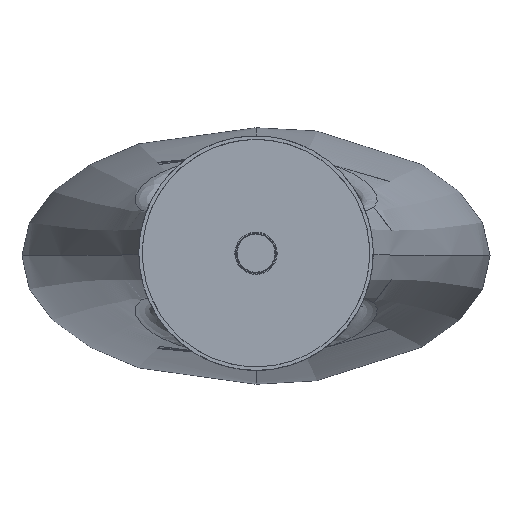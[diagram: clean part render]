
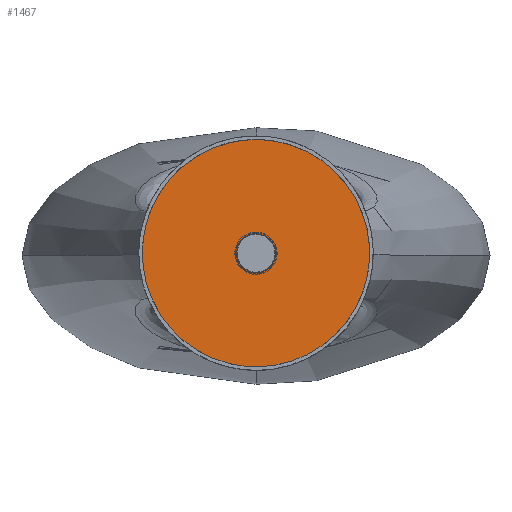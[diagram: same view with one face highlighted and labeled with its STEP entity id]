
A CAD part, top view. The second image highlights one B-rep face of the part: STEP entity #1467.
In plain terms, the highlighted free-form (B-spline) face has degree [2, 1] with [9, 2] control points.
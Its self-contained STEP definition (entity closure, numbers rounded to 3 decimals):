
#882=B_SPLINE_CURVE_WITH_KNOTS('',1,(#51310,#51311),.UNSPECIFIED.,.F.,.F.,
(2,2),(89.9,130.3),.UNSPECIFIED.);
#946=(
BOUNDED_SURFACE()
B_SPLINE_SURFACE(2,1,((#51244,#51245),(#51246,#51247),(#51248,#51249),(#51250,
#51251),(#51252,#51253),(#51254,#51255),(#51256,#51257),(#51258,#51259),
(#51260,#51261)),.UNSPECIFIED.,.T.,.F.,.F.)
B_SPLINE_SURFACE_WITH_KNOTS((3,2,2,2,3),(2,2),(0.,78.54,157.08,
235.619,314.159),(89.9,130.3),
 .UNSPECIFIED.)
GEOMETRIC_REPRESENTATION_ITEM()
RATIONAL_B_SPLINE_SURFACE(((1.,1.),(0.707,0.707),
(1.,1.),(0.707,0.707),(1.,1.),(0.707,
0.707),(1.,1.),(0.707,0.707),(1.,1.)))
REPRESENTATION_ITEM('')
SURFACE()
);
#1467=ADVANCED_FACE('',(#1919),#946,.T.);
#1919=FACE_OUTER_BOUND('',#2418,.T.);
#2418=EDGE_LOOP('',(#4638,#4639,#4640,#4641));
#4638=ORIENTED_EDGE('',*,*,#5757,.F.);
#4639=ORIENTED_EDGE('',*,*,#5762,.T.);
#4640=ORIENTED_EDGE('',*,*,#5757,.T.);
#4641=ORIENTED_EDGE('',*,*,#5763,.F.);
#5757=EDGE_CURVE('',#6804,#6803,#882,.T.);
#5762=EDGE_CURVE('',#6804,#6804,#6082,.T.);
#5763=EDGE_CURVE('',#6803,#6803,#6083,.T.);
#6082=(
BOUNDED_CURVE()
B_SPLINE_CURVE(2,(#51334,#51335,#51336,#51337,#51338,#51339,#51340,#51341,
#51342),.UNSPECIFIED.,.T.,.F.)
B_SPLINE_CURVE_WITH_KNOTS((3,2,2,2,3),(0.,78.54,157.08,
235.619,314.159),.UNSPECIFIED.)
CURVE()
GEOMETRIC_REPRESENTATION_ITEM()
RATIONAL_B_SPLINE_CURVE((1.,0.707,1.,0.707,1.,0.707,
1.,0.707,1.))
REPRESENTATION_ITEM('')
);
#6083=(
BOUNDED_CURVE()
B_SPLINE_CURVE(2,(#51343,#51344,#51345,#51346,#51347,#51348,#51349,#51350,
#51351),.UNSPECIFIED.,.T.,.F.)
B_SPLINE_CURVE_WITH_KNOTS((3,2,2,2,3),(0.,78.54,157.08,
235.619,314.159),.UNSPECIFIED.)
CURVE()
GEOMETRIC_REPRESENTATION_ITEM()
RATIONAL_B_SPLINE_CURVE((1.,0.707,1.,0.707,1.,0.707,
1.,0.707,1.))
REPRESENTATION_ITEM('')
);
#6803=VERTEX_POINT('',#51291);
#6804=VERTEX_POINT('',#51292);
#51244=CARTESIAN_POINT('',(-48.5,0.,-22.5));
#51245=CARTESIAN_POINT('',(-8.1,0.,-22.5));
#51246=CARTESIAN_POINT('',(-48.5,-48.5,-22.5));
#51247=CARTESIAN_POINT('',(-8.1,-8.1,-22.5));
#51248=CARTESIAN_POINT('',(0.,-48.5,-22.5));
#51249=CARTESIAN_POINT('',(0.,-8.1,-22.5));
#51250=CARTESIAN_POINT('',(48.5,-48.5,-22.5));
#51251=CARTESIAN_POINT('',(8.1,-8.1,-22.5));
#51252=CARTESIAN_POINT('',(48.5,0.,-22.5));
#51253=CARTESIAN_POINT('',(8.1,0.,-22.5));
#51254=CARTESIAN_POINT('',(48.5,48.5,-22.5));
#51255=CARTESIAN_POINT('',(8.1,8.1,-22.5));
#51256=CARTESIAN_POINT('',(0.,48.5,-22.5));
#51257=CARTESIAN_POINT('',(0.,8.1,-22.5));
#51258=CARTESIAN_POINT('',(-48.5,48.5,-22.5));
#51259=CARTESIAN_POINT('',(-8.1,8.1,-22.5));
#51260=CARTESIAN_POINT('',(-48.5,0.,-22.5));
#51261=CARTESIAN_POINT('',(-8.1,0.,-22.5));
#51291=CARTESIAN_POINT('',(-8.1,0.,-22.5));
#51292=CARTESIAN_POINT('',(-48.5,0.,-22.5));
#51310=CARTESIAN_POINT('',(-48.5,0.,-22.5));
#51311=CARTESIAN_POINT('',(-8.1,0.,-22.5));
#51334=CARTESIAN_POINT('',(-48.5,0.,-22.5));
#51335=CARTESIAN_POINT('',(-48.5,-48.5,-22.5));
#51336=CARTESIAN_POINT('',(0.,-48.5,-22.5));
#51337=CARTESIAN_POINT('',(48.5,-48.5,-22.5));
#51338=CARTESIAN_POINT('',(48.5,0.,-22.5));
#51339=CARTESIAN_POINT('',(48.5,48.5,-22.5));
#51340=CARTESIAN_POINT('',(0.,48.5,-22.5));
#51341=CARTESIAN_POINT('',(-48.5,48.5,-22.5));
#51342=CARTESIAN_POINT('',(-48.5,0.,-22.5));
#51343=CARTESIAN_POINT('',(-8.1,0.,-22.5));
#51344=CARTESIAN_POINT('',(-8.1,-8.1,-22.5));
#51345=CARTESIAN_POINT('',(0.,-8.1,-22.5));
#51346=CARTESIAN_POINT('',(8.1,-8.1,-22.5));
#51347=CARTESIAN_POINT('',(8.1,0.,-22.5));
#51348=CARTESIAN_POINT('',(8.1,8.1,-22.5));
#51349=CARTESIAN_POINT('',(0.,8.1,-22.5));
#51350=CARTESIAN_POINT('',(-8.1,8.1,-22.5));
#51351=CARTESIAN_POINT('',(-8.1,0.,-22.5));
